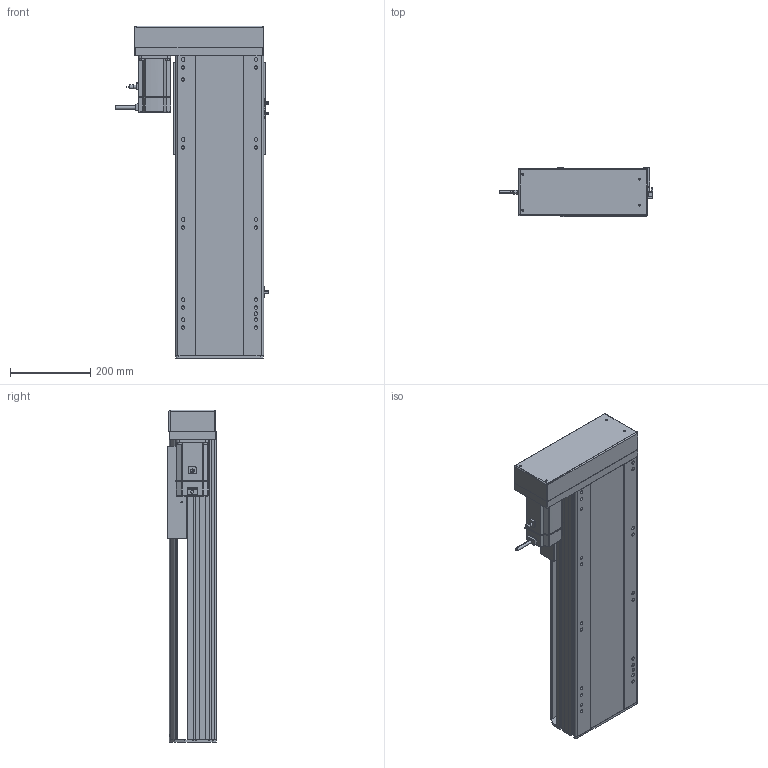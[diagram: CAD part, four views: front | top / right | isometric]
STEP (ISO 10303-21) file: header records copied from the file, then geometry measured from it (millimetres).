
FILE_DESCRIPTION (( 'STEP AP214' ), '1' );
FILE_NAME ('RTH22-XX-450-R-M75-C4.STEP', '2025-10-25T03:09:09', ( 'Microsoft' ), ( 'Microsoft' ), 'SwSTEP 2.0', 'SolidWorks 2018', '' );
FILE_SCHEMA (( 'AUTOMOTIVE_DESIGN' ));
Length unit declared in the file: millimetre
Products named in the file (10): N_750W萇儂^RTH22-XX-XX-R-M75-C4; N_OMRON EE-SX672 传感器^RTH22-XX-XX-R-M75-C4; N_RTH22-L-011菁釱^RTH22-XX-XX-R-M75-C4; N_RTH22-L-007奻裔^RTH22-XX-XX-R-M75-C4; N_RTH22-GY-013外置感应片^RTH22-XX-XX-R-M75-C4; N_RTH22-L-018裔赽^RTH22-XX-XX-R-M75-C4; N_RTH22-L-004-SFS25賑釱^RTH22-XX-XX-R-M75-C4; RTH22-XX-450-R-M75-C4; N_RTH22-R-008-P75萇儂啣^RTH22-XX-XX-R-M75-C4; N_RTH22-GY-001耜裔^RTH22-XX-XX-R-M75-C4
Assembly tree (11 placements, depth 2):
  RTH22-XX-450-R-M75-C4
    N_RTH22-L-011菁釱^RTH22-XX-XX-R-M75-C4
    N_RTH22-GY-001耜裔^RTH22-XX-XX-R-M75-C4
    N_750W萇儂^RTH22-XX-XX-R-M75-C4
    N_RTH22-R-008-P75萇儂啣^RTH22-XX-XX-R-M75-C4
    N_RTH22-L-007奻裔^RTH22-XX-XX-R-M75-C4
    N_OMRON EE-SX672 传感器^RTH22-XX-XX-R-M75-C4  x3
    N_RTH22-GY-013外置感应片^RTH22-XX-XX-R-M75-C4
    N_RTH22-L-004-SFS25賑釱^RTH22-XX-XX-R-M75-C4
    N_RTH22-L-018裔赽^RTH22-XX-XX-R-M75-C4
Bounding box: 384.7 x 122 x 829.7 mm (x, y, z)
Volume: 12496592.2 mm3; surface area: 1480124 mm2
Topology: 11 solids, 11 shells, 1556 faces, 4247 edges, 2743 vertices
Faces by surface type: plane 789, cylinder 438, bspline 279, cone 50
Entity records: 38651 total; most frequent: CARTESIAN_POINT 11906, ORIENTED_EDGE 5486, DIRECTION 5129, EDGE_CURVE 2743, VERTEX_POINT 1779, LINE 1717, VECTOR 1717, AXIS2_PLACEMENT_3D 1706
